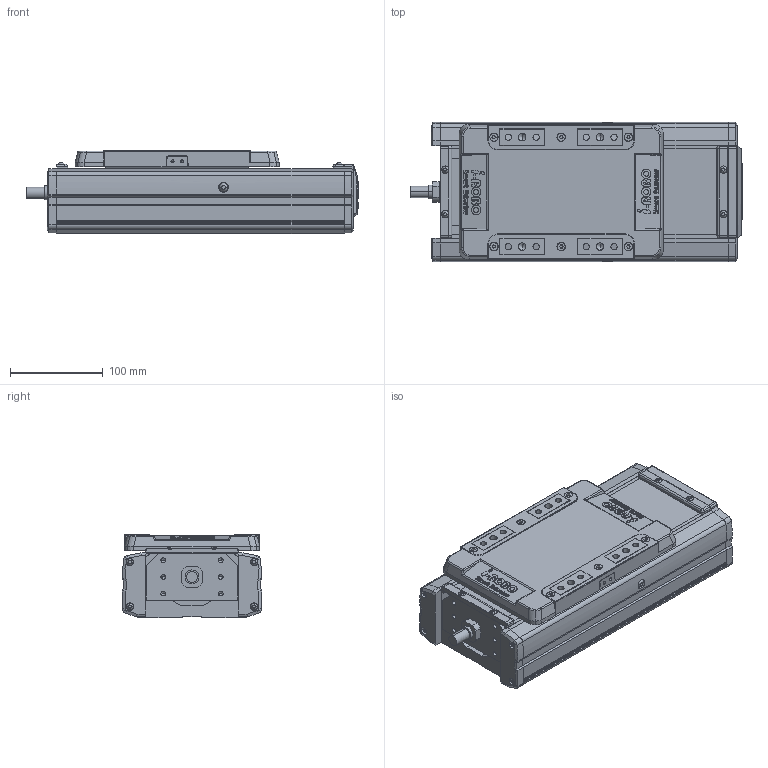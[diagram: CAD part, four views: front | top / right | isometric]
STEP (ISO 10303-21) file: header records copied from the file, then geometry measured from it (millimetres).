
FILE_DESCRIPTION(('STEP AP214'),'1');
FILE_NAME('Z:/Web/3D/SAN150/2013.04 (STP.)/SAN150ㅁㅁ-50.stp','2013-05-08T02:52:16',(' '),(' '),'Spatial InterOp 3D',' ',' ');
FILE_SCHEMA(('automotive_design'));
Length unit declared in the file: millimetre
Products named in the file (33): SLBL-SAN150; SLCV-SAN150; FHCS M4.0 x 8.0; BHCS M4.0 x 10.0; SFX-SAN150; RRCV-SAN150; FRBL-SAN150; Spacer; RN15; FRCV-SAN150; Screw 20; BASE-SAN150-000L ; SUS COVER; 스크루 : Round - M5.0 x 6.0
Bounding box: 358 x 150 x 90 mm (x, y, z)
Volume: 2542457.6 mm3; surface area: 484284.5 mm2
Topology: 33 solids, 33 shells, 1863 faces, 4807 edges, 3076 vertices
Faces by surface type: plane 949, cylinder 647, cone 190, sphere 44, bspline 21, torus 12
Entity records: 73659 total; most frequent: CARTESIAN_POINT 11749, DIRECTION 10114, ORIENTED_EDGE 9446, EDGE_CURVE 4723, AXIS2_PLACEMENT_3D 3576, VERTEX_POINT 3076, LINE 2962, VECTOR 2962
